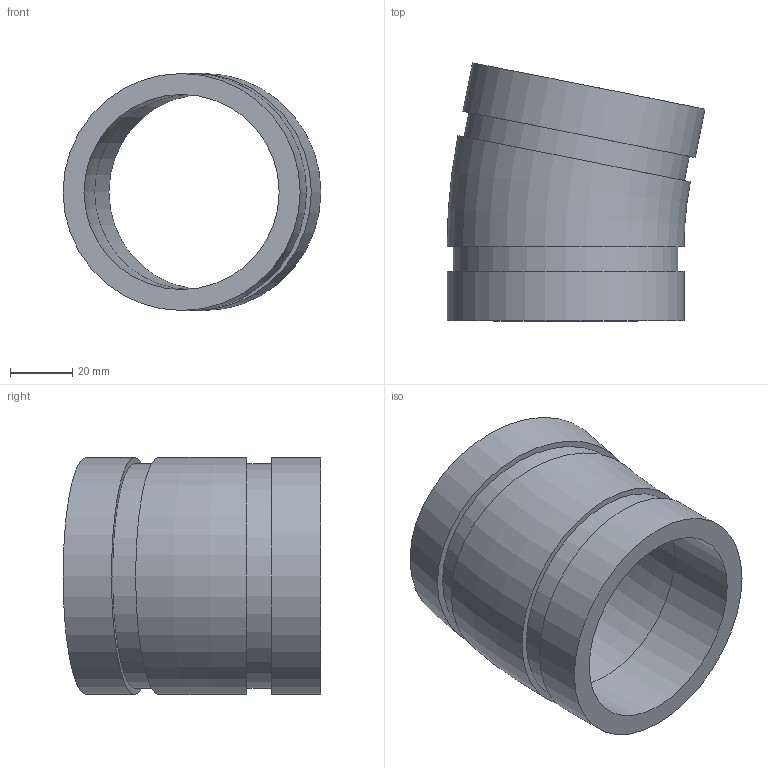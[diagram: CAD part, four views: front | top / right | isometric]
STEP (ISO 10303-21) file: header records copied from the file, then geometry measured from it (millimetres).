
FILE_DESCRIPTION(/* description */ ('VIC 11-1/4 DEG. ELBOW No 13','CAx-IF Rec.Pracs.---Representation and Presentation of Product Manufacturing Information (PMI)---4.0---2014-10-13'),/* implementation_level */ '2;1');
FILE_NAME(/* name */ 'C:\Users\kkamble\AppData\Roaming\Autodesk\ApplicationPlugins\Back Up\Victaulic_IPS_Elbow 11.25 Deg_No 13 (OGS)\Victaulic_IPS_Elbow 11.25 Deg_No 13 (OGS)_2.5 (76.1) (65).stp',/* time_stamp */ '2020-07-24T08:08:58+06:00',/* author */ ('CONSTRUCTION PIPING SERVICES'),/* organization */ ('Victaulic'),/* preprocessor_version */ 'ST-DEVELOPER v17.2',/* originating_system */ 'Autodesk Inventor 2019',/* authorisation */ '');
FILE_SCHEMA (('AP242_MANAGED_MODEL_BASED_3D_ENGINEERING_MIM_LF { 1 0 10303 442 1 1 4 }'));
Length unit declared in the file: inch
Products named in the file (1): 013-02.5 (76.1)
Bounding box: 82.9 x 82.9 x 76.2 mm (x, y, z)
Volume: 104503.3 mm3; surface area: 37797.8 mm2
Topology: 1 solids, 1 shells, 14 faces, 32 edges, 24 vertices
Faces by surface type: plane 6, cylinder 6, torus 2
Full cylindrical faces by diameter (mm): 62.738 x2, 72.263 x2, 76.2 x2
Entity records: 487 total; most frequent: DIRECTION 88, CARTESIAN_POINT 71, ORIENTED_EDGE 64, AXIS2_PLACEMENT_3D 41, EDGE_CURVE 32, CIRCLE 26, VERTEX_POINT 24, EDGE_LOOP 20
